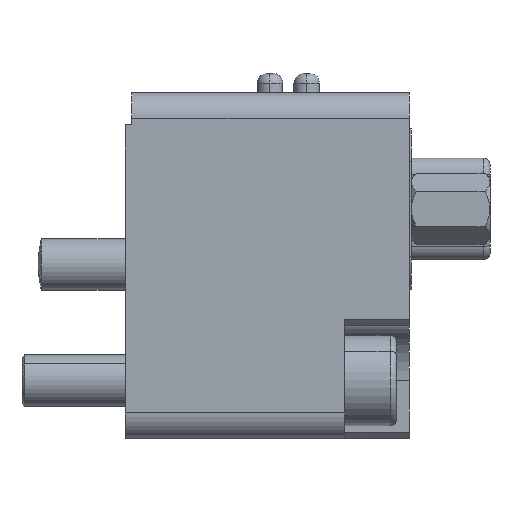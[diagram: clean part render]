
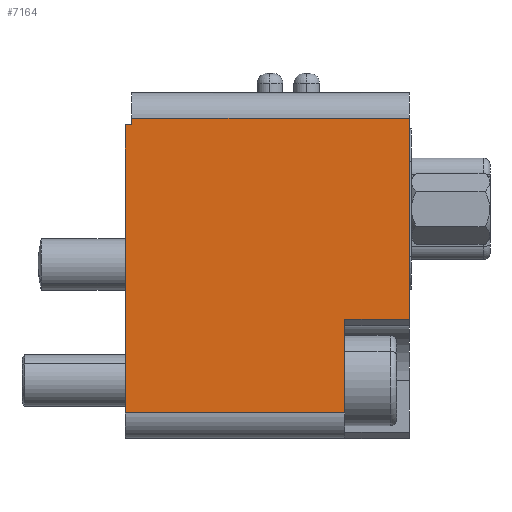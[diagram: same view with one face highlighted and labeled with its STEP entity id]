
A CAD part, left-side view. The second image highlights one B-rep face of the part: STEP entity #7164.
In plain terms, the highlighted planar face has unit normal (-1, 0, 0).
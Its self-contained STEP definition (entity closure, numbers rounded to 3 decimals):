
#93 = CARTESIAN_POINT ( 'NONE',  ( -30., 10.12, -28.3 ) ) ;
#131 = EDGE_CURVE ( 'NONE', #4941, #11826, #2349, .T. ) ;
#294 = EDGE_CURVE ( 'NONE', #7578, #11060, #839, .T. ) ;
#460 = EDGE_CURVE ( 'NONE', #723, #11060, #7204, .T. ) ;
#573 = VECTOR ( 'NONE', #790, 1000. ) ;
#609 = CARTESIAN_POINT ( 'NONE',  ( -30., 9.62, -4. ) ) ;
#723 = VERTEX_POINT ( 'NONE', #11711 ) ;
#740 = EDGE_CURVE ( 'NONE', #11672, #11826, #4474, .T. ) ;
#790 = DIRECTION ( 'NONE',  ( 0., 0., 1. ) ) ;
#839 = LINE ( 'NONE', #609, #573 ) ;
#872 = EDGE_CURVE ( 'NONE', #4941, #6550, #6205, .T. ) ;
#1000 = EDGE_CURVE ( 'NONE', #11672, #5638, #12970, .T. ) ;
#1008 = EDGE_CURVE ( 'NONE', #5638, #7578, #12975, .T. ) ;
#1045 = EDGE_CURVE ( 'NONE', #6550, #723, #12839, .T. ) ;
#2053 = CARTESIAN_POINT ( 'NONE',  ( -30., 9.62, -4. ) ) ;
#2117 = CARTESIAN_POINT ( 'NONE',  ( -30., -6.881, -26.3 ) ) ;
#2195 = VECTOR ( 'NONE', #10677, 1000. ) ;
#2349 = LINE ( 'NONE', #10935, #2195 ) ;
#2706 = CARTESIAN_POINT ( 'NONE',  ( -30., 10.12, -26.3 ) ) ;
#2802 = FACE_OUTER_BOUND ( 'NONE', #10907, .T. ) ;
#3129 = AXIS2_PLACEMENT_3D ( 'NONE', #93, #12572, #12484 ) ;
#3529 = VECTOR ( 'NONE', #4158, 1000. ) ;
#3662 = CARTESIAN_POINT ( 'NONE',  ( -30., 10.12, -4. ) ) ;
#4075 = CARTESIAN_POINT ( 'NONE',  ( -30., -11.88, -19.05 ) ) ;
#4158 = DIRECTION ( 'NONE',  ( 0., -1., 0. ) ) ;
#4474 = LINE ( 'NONE', #11611, #13112 ) ;
#4941 = VERTEX_POINT ( 'NONE', #11468 ) ;
#5353 = CARTESIAN_POINT ( 'NONE',  ( -30., 9.62, -3.5 ) ) ;
#5584 = CARTESIAN_POINT ( 'NONE',  ( -30., 10.12, -28.3 ) ) ;
#5611 = DIRECTION ( 'NONE',  ( 0., 0., 1. ) ) ;
#5638 = VERTEX_POINT ( 'NONE', #3662 ) ;
#5733 = DIRECTION ( 'NONE',  ( 0., -1., 0. ) ) ;
#5869 = CARTESIAN_POINT ( 'NONE',  ( -30., 10.12, -4. ) ) ;
#5965 = CARTESIAN_POINT ( 'NONE',  ( -30., -11.88, -28.3 ) ) ;
#6205 = LINE ( 'NONE', #4075, #3529 ) ;
#6214 = DIRECTION ( 'NONE',  ( 0., 0., 1. ) ) ;
#6550 = VERTEX_POINT ( 'NONE', #7920 ) ;
#7164 = ADVANCED_FACE ( 'NONE', ( #2802 ), #12662, .T. ) ;
#7204 = LINE ( 'NONE', #12252, #9107 ) ;
#7578 = VERTEX_POINT ( 'NONE', #2053 ) ;
#7920 = CARTESIAN_POINT ( 'NONE',  ( -30., -11.88, -19.05 ) ) ;
#9107 = VECTOR ( 'NONE', #9673, 1000. ) ;
#9673 = DIRECTION ( 'NONE',  ( 0., 1., 0. ) ) ;
#10508 = ORIENTED_EDGE ( 'NONE', *, *, #1000, .F. ) ;
#10673 = ORIENTED_EDGE ( 'NONE', *, *, #740, .T. ) ;
#10677 = DIRECTION ( 'NONE',  ( 0., 0., -1. ) ) ;
#10795 = ORIENTED_EDGE ( 'NONE', *, *, #131, .F. ) ;
#10900 = ORIENTED_EDGE ( 'NONE', *, *, #872, .T. ) ;
#10907 = EDGE_LOOP ( 'NONE', ( #10508, #10673, #10795, #10900, #11068, #11150, #11312, #11505 ) ) ;
#10935 = CARTESIAN_POINT ( 'NONE',  ( -30., -6.881, -19.55 ) ) ;
#11060 = VERTEX_POINT ( 'NONE', #5353 ) ;
#11068 = ORIENTED_EDGE ( 'NONE', *, *, #1045, .T. ) ;
#11150 = ORIENTED_EDGE ( 'NONE', *, *, #460, .T. ) ;
#11312 = ORIENTED_EDGE ( 'NONE', *, *, #294, .F. ) ;
#11468 = CARTESIAN_POINT ( 'NONE',  ( -30., -6.881, -19.05 ) ) ;
#11505 = ORIENTED_EDGE ( 'NONE', *, *, #1008, .F. ) ;
#11611 = CARTESIAN_POINT ( 'NONE',  ( -30., -6.881, -26.3 ) ) ;
#11672 = VERTEX_POINT ( 'NONE', #2706 ) ;
#11711 = CARTESIAN_POINT ( 'NONE',  ( -30., -11.88, -3.5 ) ) ;
#11826 = VERTEX_POINT ( 'NONE', #2117 ) ;
#12252 = CARTESIAN_POINT ( 'NONE',  ( -30., 9.62, -3.5 ) ) ;
#12330 = DIRECTION ( 'NONE',  ( 0., -1., 0. ) ) ;
#12484 = DIRECTION ( 'NONE',  ( 0., -1., 0. ) ) ;
#12572 = DIRECTION ( 'NONE',  ( -1., 0., 0. ) ) ;
#12662 = PLANE ( 'NONE',  #3129 ) ;
#12839 = LINE ( 'NONE', #5965, #12889 ) ;
#12889 = VECTOR ( 'NONE', #6214, 1000. ) ;
#12930 = VECTOR ( 'NONE', #5733, 1000. ) ;
#12970 = LINE ( 'NONE', #5584, #12980 ) ;
#12975 = LINE ( 'NONE', #5869, #12930 ) ;
#12980 = VECTOR ( 'NONE', #5611, 1000. ) ;
#13112 = VECTOR ( 'NONE', #12330, 1000. ) ;
